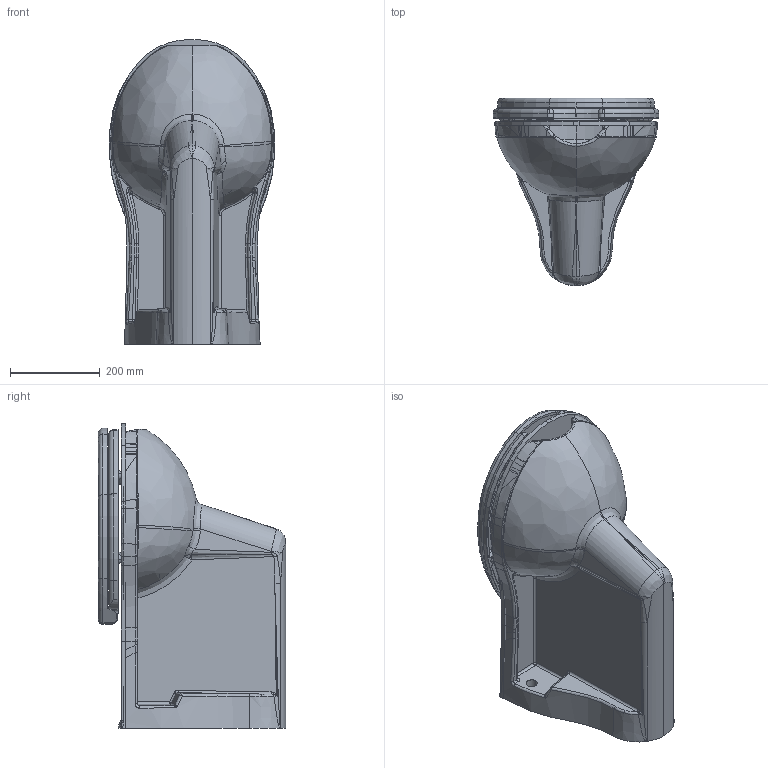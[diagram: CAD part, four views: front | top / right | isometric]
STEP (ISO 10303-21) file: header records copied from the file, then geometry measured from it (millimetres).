
FILE_DESCRIPTION (( 'STEP AP203' ), '1' );
FILE_NAME ('bd320-2-RENDER-SON.STEP', '2018-07-30T08:21:47', ( '' ), ( '' ), 'SwSTEP 2.0', 'SolidWorks 2018', '' );
FILE_SCHEMA (( 'CONFIG_CONTROL_DESIGN' ));
Length unit declared in the file: millimetre
Products named in the file (1): bd320-2-RENDER-SON
Bounding box: 368.47 x 416 x 678 mm (x, y, z)
Volume: 28084713.6 mm3; surface area: 1891252.5 mm2
Topology: 6 solids, 6 shells, 739 faces, 1837 edges, 1084 vertices
Faces by surface type: bspline 242, cylinder 206, torus 143, plane 91, cone 31, sphere 26
Entity records: 36702 total; most frequent: CARTESIAN_POINT 20735, ORIENTED_EDGE 3606, DIRECTION 3102, EDGE_CURVE 1803, AXIS2_PLACEMENT_3D 1349, VERTEX_POINT 1080, CIRCLE 851, EDGE_LOOP 753
